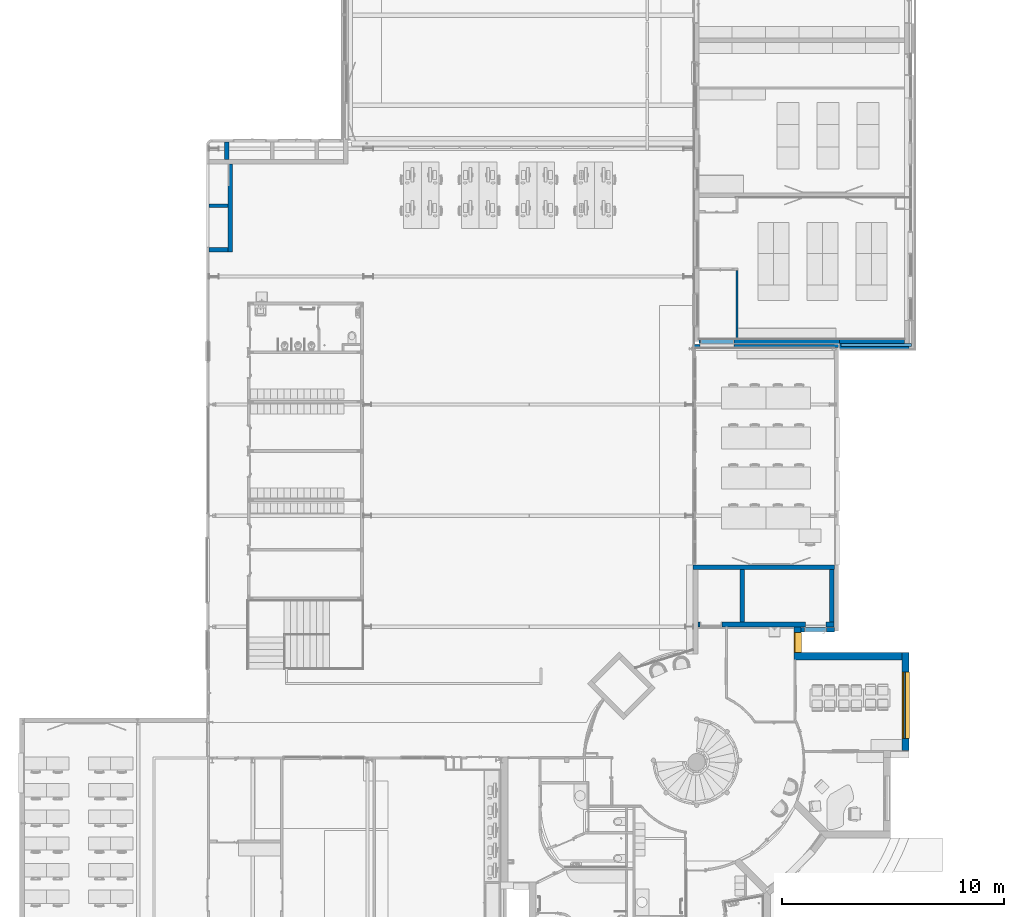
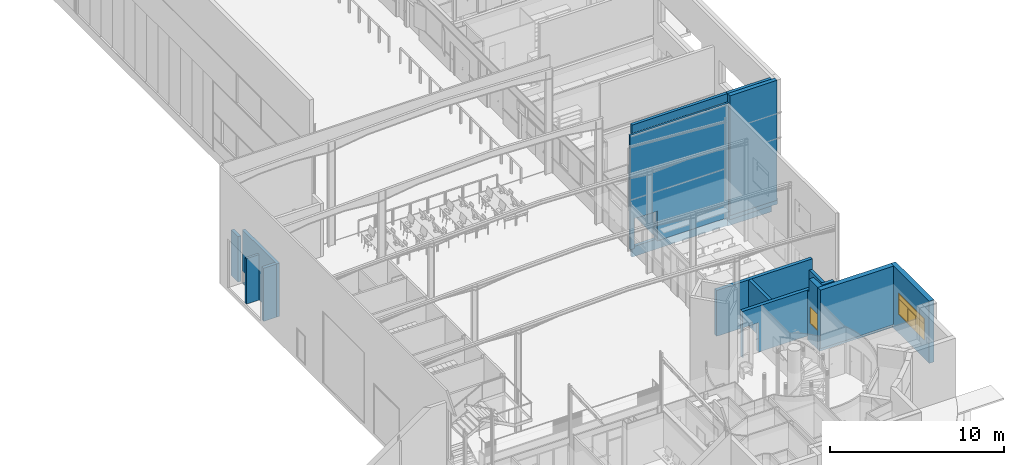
# One storey, part 59 of 137: 18 walls, 2 windows, 10 openings.
"""IFC2X3 building model written with IfcOpenShell, lengths in centimetres."""

from ifc_helpers import new_model, entity, si_unit, converted_unit, derived_unit, direction, frame, frame_2d, origin, origin_2d_with_axis, place, context, subcontext, project, spatial, polyline, rectangle, outline, extrude, clip, halfspace, bounded_halfspace, source, transform, mapped, material, layer, layer_set, layer_usage, type_object, type_shapes, element, fill, save


model = new_model("IFC2X3")

# Units and contexts
model_context = context("Model", 3, precision=0.001, world=origin(), true_north=direction((6.12303176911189e-17, 1.0)))
body_context = subcontext(model_context, "Body", "Model", "MODEL_VIEW")
ifc_project = project(units=[si_unit("LENGTHUNIT", "METRE", prefix="CENTI"), si_unit("AREAUNIT", "SQUARE_METRE"), si_unit("VOLUMEUNIT", "CUBIC_METRE"), converted_unit("PLANEANGLEUNIT", "DEGREE", entity("IfcRatioMeasure", 0.0174532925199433), si_unit("PLANEANGLEUNIT", "RADIAN"), dimensions=[0, 0, 0, 0, 0, 0, 0]), si_unit("MASSUNIT", "GRAM", prefix="KILO"), si_unit("TIMEUNIT", "SECOND"), si_unit("FREQUENCYUNIT", "HERTZ"), si_unit("THERMODYNAMICTEMPERATUREUNIT", "DEGREE_CELSIUS"), derived_unit("THERMALTRANSMITTANCEUNIT", [(si_unit("MASSUNIT", "GRAM", prefix="KILO"), 1), (si_unit("THERMODYNAMICTEMPERATUREUNIT", "KELVIN"), -1), (si_unit("TIMEUNIT", "SECOND"), -3)]), derived_unit("VOLUMETRICFLOWRATEUNIT", [(si_unit("LENGTHUNIT", "METRE"), 3), (si_unit("TIMEUNIT", "SECOND"), -1)]), si_unit("ELECTRICCURRENTUNIT", "AMPERE"), si_unit("ELECTRICVOLTAGEUNIT", "VOLT"), si_unit("POWERUNIT", "WATT"), si_unit("FORCEUNIT", "NEWTON", prefix="KILO"), si_unit("ILLUMINANCEUNIT", "LUX"), si_unit("LUMINOUSFLUXUNIT", "LUMEN"), si_unit("LUMINOUSINTENSITYUNIT", "CANDELA"), derived_unit("USERDEFINED", [(si_unit("MASSUNIT", "GRAM", prefix="KILO"), -1), (si_unit("LENGTHUNIT", "METRE"), -2), (si_unit("TIMEUNIT", "SECOND"), 3), (si_unit("LUMINOUSFLUXUNIT", "LUMEN"), 1)]), derived_unit("LINEARVELOCITYUNIT", [(si_unit("LENGTHUNIT", "METRE"), 1), (si_unit("TIMEUNIT", "SECOND"), -1)]), si_unit("PRESSUREUNIT", "PASCAL"), derived_unit("USERDEFINED", [(si_unit("LENGTHUNIT", "METRE"), -2), (si_unit("MASSUNIT", "GRAM", prefix="KILO"), 1), (si_unit("TIMEUNIT", "SECOND"), -2)])], contexts=[model_context])

# Site, building, storey
site_placement = place(None, frame((8.62739174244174, -249.285249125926, 0.0)))
site = spatial("IfcSite", under=ifc_project, at=site_placement, Name="Default", CompositionType="ELEMENT")
building_placement = place(site_placement, origin())
building = spatial("IfcBuilding", under=site, at=building_placement, CompositionType="ELEMENT")
storey_placement = place(building_placement, origin())
storey = spatial("IfcBuildingStorey", under=building, at=storey_placement, Name="RDC", CompositionType="ELEMENT", Elevation=-8.82465566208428e-11)

# Wall, opening, window
ifc_material_1 = material(Name="Maçonnerie - Enduit")
ifc_layer_1 = layer(ifc_material_1, 1.0)
ifc_material_2 = material(Name="Maçonnerie")
ifc_layer_2 = layer(ifc_material_2, 20.0)
ifc_material_3 = material(Name="Laine minérale")
ifc_layer_3 = layer(ifc_material_3, 10.0)
ifc_material_4 = material(Name="Plâtre")
ifc_layer_4 = layer(ifc_material_4, 1.0)
ifc_layer_set_1 = layer_set([ifc_layer_1, ifc_layer_2, ifc_layer_3, ifc_layer_4], Name="Mur de base:END 1 + PAR 20 + ISO 10 + PLA 1")
ifc_layer_usage_1 = layer_usage(ifc_layer_set_1, "AXIS2", "POSITIVE", -16.0)
wall_type_1 = type_object("IfcWallType", Name="Mur de base:END 1 + PAR 20 + ISO 10 + PLA 1", PredefinedType="STANDARD", material=ifc_layer_set_1)
wall_1_placement = place(storey_placement, frame((3982.90482781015, 805.980208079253, -25.0), z_axis=(0.0, 0.0, 1.0), x_axis=(0.0, 1.0, 0.0)))
wall_1 = element("IfcWallStandardCase", 1, at=wall_1_placement, inside=storey, type_object=wall_type_1, material=ifc_layer_usage_1, Name="Mur de base:END 1 + PAR 20 + ISO 10 + PLA 1", ObjectType="Mur de base:END 1 + PAR 20 + ISO 10 + PLA 1", context=body_context, shape_type="SweptSolid", body=[
    extrude(rectangle(XDim=439.999999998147, YDim=31.9999999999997, at=frame_2d((219.999999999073, -2.93098878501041e-14), x_axis=(-1.0, 0.0))), origin(), (0.0, 0.0, 1.0), 434.999999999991),
])
opening_1_placement = place(wall_1_placement, frame((354.0, 16.0, 131.0)))
opening_1 = element("IfcOpeningElement", 2, at=opening_1_placement, cuts=wall_1, Name="2C_90x115-F_90x115:2C_90x115-F_90x115:1", ObjectType="Opening", context=body_context, shape_type="SweptSolid", body=[
    extrude(rectangle(XDim=150.0, YDim=300.0, at=frame_2d((75.0, 150.0), x_axis=(1.0, 0.0))), frame((0.0, 0.0, 0.0), z_axis=(0.0, -1.0, 0.0), x_axis=(0.0, 0.0, 1.0)), (0.0, 0.0, 1.0), 32.0),
])
ifc_material_5 = material(Name="Verre")
window_style_1 = type_object("IfcWindowStyle", Name="2C_90x115-F_90x115", ConstructionType="NOTDEFINED", OperationType="NOTDEFINED", ParameterTakesPrecedence=False, Sizeable=False, material=ifc_material_5)
shared_shape_1 = source(origin(), body_context, "Body", "SweptSolid", [
    extrude(outline(polyline([(-6.08881617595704, -1.51443789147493), (11.9417748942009, -1.51443789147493), (11.910114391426, -0.971616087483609), (-5.61877789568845, -0.986172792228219), (-5.82257176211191, 2.50788903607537), (-6.32172345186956, 2.4787756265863), (-6.08881617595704, -1.51443789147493)])), frame((0.0, 27.8333333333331, 0.292799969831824), z_axis=(1.0, 0.0, 0.0), x_axis=(0.0, -0.998303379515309, 0.0582268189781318)), (0.0, 0.0, 1.0), 300.0),
    extrude(rectangle(XDim=2.0, YDim=290.0, at=frame_2d((8.88178419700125e-16, 0.0), x_axis=(1.0, 0.0))), frame((150.0, 2.5, 110.0), z_axis=(0.0, 0.0, 1.0), x_axis=(0.0, 1.0, 0.0)), (0.0, 0.0, 1.0), 35.0000000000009),
    extrude(rectangle(XDim=10.0, YDim=300.0, at=origin_2d_with_axis()), frame((150.0, 5.0, 0.0), z_axis=(0.0, 0.0, 1.0), x_axis=(0.0, 1.0, 0.0)), (0.0, 0.0, 1.0), 4.99999999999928),
    extrude(outline(polyline([(-22.4999999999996, -150.0), (22.4999999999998, -150.0), (22.4999999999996, 150.0), (-22.4999999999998, 150.0), (-22.4999999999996, -150.0)]), holes=[polyline([(17.5000000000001, -145.0), (-17.4999999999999, -145.0), (-17.5000000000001, 145.0), (17.4999999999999, 145.0), (17.5000000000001, -145.0)])]), frame((150.0, 0.0, 127.500000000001), z_axis=(0.0, 1.0, 0.0), x_axis=(0.0, 0.0, -1.0)), (0.0, 0.0, 1.0), 9.99999999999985),
    extrude(rectangle(XDim=2.0, YDim=94.6666666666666, at=frame_2d((4.44089209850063e-16, 0.0), x_axis=(1.0, 0.0))), frame((150.0, 7.5, 9.0), z_axis=(0.0, 0.0, 1.0), x_axis=(0.0, 1.0, 0.0)), (0.0, 0.0, 1.0), 92.0),
    extrude(outline(polyline([(-50.0, -51.3333333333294), (50.0, -51.3333333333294), (50.0, 51.3333333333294), (-50.0, 51.3333333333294), (-50.0, -51.3333333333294)]), holes=[polyline([(46.0, -47.3333333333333), (-46.0, -47.3333333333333), (-46.0, 47.3333333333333), (46.0, 47.3333333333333), (46.0, -47.3333333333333)])]), frame((150.0, 5.5, 55.0), z_axis=(0.0, 1.0, 0.0), x_axis=(0.0, 0.0, -1.0)), (0.0, 0.0, 1.0), 4.0),
    extrude(rectangle(XDim=2.0, YDim=94.6666666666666, at=frame_2d((8.88178419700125e-16, 0.0), x_axis=(1.0, 0.0))), frame((248.66666666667, 2.5, 9.0), z_axis=(0.0, 0.0, 1.0), x_axis=(0.0, 1.0, 0.0)), (0.0, 0.0, 1.0), 92.0),
    extrude(outline(polyline([(-50.0, -51.3333333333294), (50.0, -51.3333333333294), (50.0, 51.3333333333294), (-50.0, 51.3333333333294), (-50.0, -51.3333333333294)]), holes=[polyline([(46.0, -47.3333333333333), (-46.0, -47.3333333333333), (-46.0, 47.3333333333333), (46.0, 47.3333333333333), (46.0, -47.3333333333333)])]), frame((248.66666666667, 0.500000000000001, 55.0), z_axis=(0.0, 1.0, 0.0), x_axis=(0.0, 0.0, -1.0)), (0.0, 0.0, 1.0), 4.0),
    extrude(rectangle(XDim=2.0, YDim=94.6666666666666, at=frame_2d((8.88178419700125e-16, 0.0), x_axis=(1.0, 0.0))), frame((51.3333333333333, 2.5, 9.0), z_axis=(0.0, 0.0, 1.0), x_axis=(0.0, 1.0, 0.0)), (0.0, 0.0, 1.0), 92.0),
    extrude(outline(polyline([(-50.0, -51.3333333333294), (50.0, -51.3333333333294), (50.0, 51.3333333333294), (-50.0, 51.3333333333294), (-50.0, -51.3333333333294)]), holes=[polyline([(46.0, -47.3333333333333), (-46.0, -47.3333333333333), (-46.0, 47.3333333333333), (46.0, 47.3333333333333), (46.0, -47.3333333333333)])]), frame((51.3333333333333, 0.500000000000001, 55.0), z_axis=(0.0, 1.0, 0.0), x_axis=(0.0, 0.0, -1.0)), (0.0, 0.0, 1.0), 4.0),
])
type_shapes(window_style_1, [shared_shape_1])
window_1_placement = place(opening_1_placement, frame((0.0, 0.0, 0.0), z_axis=(0.0, 0.0, 1.0), x_axis=(-1.0, 0.0, 0.0)))
window_1 = element("IfcWindow", 3, at=window_1_placement, inside=storey, type_object=window_style_1, material=ifc_material_5, Name="2C_90x115-F_90x115:2C_90x115-F_90x115", ObjectType="2C_90x115-F_90x115", OverallHeight=150.0, OverallWidth=300.0, context=body_context, shape_type="MappedRepresentation", body=[
    mapped(shared_shape_1, transform((0.0, 0.0, 0.0), scale=1.0)),
])
fill(opening_1, window_1)

# Wall, opening
ifc_layer_usage_2 = layer_usage(ifc_layer_set_1, "AXIS2", "POSITIVE", -16.0)
wall_2_placement = place(storey_placement, frame((3966.90482781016, 1229.9802080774, -25.0), z_axis=(0.0, 0.0, 1.0), x_axis=(-1.0, 0.0, 0.0)))
wall_2 = element("IfcWallStandardCase", 4, at=wall_2_placement, inside=storey, type_object=wall_type_1, material=ifc_layer_usage_2, Name="Mur de base:END 1 + PAR 20 + ISO 10 + PLA 1", ObjectType="Mur de base:END 1 + PAR 20 + ISO 10 + PLA 1", context=body_context, shape_type="Clipping", body=[
    clip(extrude(rectangle(XDim=485.000000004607, YDim=32.0000000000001, at=frame_2d((242.500000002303, 0.0), x_axis=(-1.0, 0.0))), origin(), (0.0, 0.0, 1.0), 434.999999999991), bounded_halfspace(frame((0.0, 5.0, 25.0), z_axis=(0.0, 0.0, 1.0), x_axis=(-1.0, 0.0, 0.0)), True, frame((0.0, 5.0, 25.0)), polyline([(0.0, 0.0), (485.0, 0.0), (485.0, 11.0), (0.0, 11.0), (0.0, 0.0)]))),
])
opening_2_placement = place(wall_2_placement, origin())
element("IfcOpeningElement", 5, at=opening_2_placement, cuts=wall_2, Name="Mur de base:END 1 + PAR 20 + ISO 10 + PLA 1", ObjectType="Opening", context=body_context, shape_type="SweptSolid", body=[
    extrude(rectangle(XDim=115.0, YDim=32.0000000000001, at=frame_2d((2.1582735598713e-13, -7.105427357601e-15), x_axis=(0.0, 1.0))), frame((469.0, -106.0, 188.499999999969), z_axis=(0.0, 1.0, 0.0), x_axis=(1.0, 0.0, 0.0)), (0.0, 0.0, 1.0), 89.9999999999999),
])

# Wall, openings, window
ifc_layer_usage_3 = layer_usage(ifc_layer_set_1, "AXIS2", "NEGATIVE", 16.0)
wall_3_placement = place(storey_placement, frame((3497.90482780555, 1361.98020807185, -25.0), z_axis=(0.0, 0.0, 1.0), x_axis=(0.0, -1.0, 0.0)))
wall_3 = element("IfcWallStandardCase", 6, at=wall_3_placement, inside=storey, type_object=wall_type_1, material=ifc_layer_usage_3, Name="Mur de base:END 1 + PAR 20 + ISO 10 + PLA 1", ObjectType="Mur de base:END 1 + PAR 20 + ISO 10 + PLA 1", context=body_context, shape_type="Clipping", body=[
    clip(clip(extrude(rectangle(XDim=115.999999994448, YDim=31.9999999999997, at=frame_2d((57.9999999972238, -4.88498130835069e-14), x_axis=(-1.0, 0.0))), origin(), (0.0, 0.0, 1.0), 434.999999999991), bounded_halfspace(frame((0.0, -16.0, 347.0), z_axis=(0.0, 0.0, -1.0), x_axis=(0.0, -1.0, 0.0)), True, frame((0.0, -16.0, 347.0)), polyline([(0.0, 0.0), (16.0003944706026, 0.0), (16.0003944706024, 32.0), (3.0, 32.0), (0.0, 32.0), (0.0, 0.0)]))), halfspace(frame((16.0003944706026, 0.0, 435.0), z_axis=(-0.956012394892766, 0.0, 0.293326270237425), x_axis=(0.0, 1.0, 0.0)), False)),
])
opening_3_placement = place(wall_3_placement, origin())
element("IfcOpeningElement", 7, at=opening_3_placement, cuts=wall_3, Name="Mur de base:END 1 + PAR 20 + ISO 10 + PLA 1", ObjectType="Opening", context=body_context, shape_type="SweptSolid", body=[
    extrude(outline(polyline([(-58.7260355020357, -8.60423726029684), (33.3229802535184, -8.60423726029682), (25.4030552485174, 17.2084745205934), (-58.7260355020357, -8.60423726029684)])), frame((7.00026298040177, 16.0, 376.333333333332), z_axis=(0.0, -1.0, 0.0), x_axis=(-0.293326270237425, 0.0, -0.956012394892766)), (0.0, 0.0, 1.0), 32.0),
])
opening_4_placement = place(wall_3_placement, frame((116.0, 16.0, 131.0)))
opening_4 = element("IfcOpeningElement", 8, at=opening_4_placement, cuts=wall_3, Name="B_90x115:B_90x115:1", ObjectType="Opening", context=body_context, shape_type="SweptSolid", body=[
    extrude(rectangle(XDim=115.0, YDim=90.0, at=frame_2d((57.5, 45.0), x_axis=(1.0, 0.0))), frame((0.0, 0.0, 0.0), z_axis=(0.0, -1.0, 0.0), x_axis=(0.0, 0.0, 1.0)), (0.0, 0.0, 1.0), 32.0),
])
window_style_2 = type_object("IfcWindowStyle", Name="B_90x115", ConstructionType="NOTDEFINED", OperationType="NOTDEFINED", ParameterTakesPrecedence=False, Sizeable=False, material=ifc_material_5)
shared_shape_2 = source(origin(), body_context, "Body", "SweptSolid", [
    extrude(rectangle(XDim=3.0, YDim=72.0000000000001, at=frame_2d((7.7715611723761e-16, 0.0), x_axis=(1.0, 0.0))), frame((45.0, 2.5, 9.0), z_axis=(0.0, 0.0, 1.0), x_axis=(0.0, 1.0, 0.0)), (0.0, 0.0, 1.0), 97.0000000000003),
    extrude(outline(polyline([(-52.4999999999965, -40.0), (52.4999999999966, -40.0), (52.4999999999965, 40.0), (-52.4999999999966, 40.0), (-52.4999999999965, -40.0)]), holes=[polyline([(48.5000000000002, -36.0), (-48.5000000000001, -36.0), (-48.5000000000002, 36.0), (48.5000000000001, 36.0), (48.5000000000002, -36.0)])]), frame((45.0, 0.500000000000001, 57.4999999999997), z_axis=(0.0, 1.0, 0.0), x_axis=(0.0, 0.0, -1.0)), (0.0, 0.0, 1.0), 4.0),
    extrude(outline(polyline([(-57.5000000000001, -45.0), (57.5, -45.0), (57.5, 45.0), (-57.5000000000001, 45.0), (-57.5000000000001, -45.0)]), holes=[polyline([(52.5000000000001, -40.0), (-52.5000000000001, -40.0), (-52.5000000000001, 40.0), (52.5000000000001, 40.0), (52.5000000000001, -40.0)])]), frame((45.0, 0.0, 57.4999999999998), z_axis=(0.0, 1.0, 0.0), x_axis=(0.0, 0.0, -1.0)), (0.0, 0.0, 1.0), 4.99999999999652),
    extrude(outline(polyline([(-9.77963712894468, -1.51138989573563), (19.2447171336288, -1.51138989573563), (19.2228065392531, -0.976875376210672), (-9.30053526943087, -0.991330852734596), (-9.44388541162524, 2.50573230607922), (-9.9434658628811, 2.4852537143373), (-9.77963712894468, -1.51138989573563)])), frame((0.0, 24.1666666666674, 0.701668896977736), z_axis=(1.0, 0.0, 0.0), x_axis=(0.0, -0.999160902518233, 0.0409571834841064)), (0.0, 0.0, 1.0), 90.0),
])
type_shapes(window_style_2, [shared_shape_2])
window_2_placement = place(opening_4_placement, frame((-90.0, -32.0, 0.0)))
window_2 = element("IfcWindow", 9, at=window_2_placement, inside=storey, type_object=window_style_2, material=ifc_material_5, Name="B_90x115:B_90x115", ObjectType="B_90x115", OverallHeight=115.0, OverallWidth=89.9999999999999, context=body_context, shape_type="MappedRepresentation", body=[
    mapped(shared_shape_2, transform((0.0, 0.0, 0.0), scale=1.0)),
])
fill(opening_4, window_2)

# Wall
ifc_layer_5 = layer(ifc_material_4, 2.0)
ifc_layer_6 = layer(ifc_material_2, 20.0)
ifc_layer_set_2 = layer_set([ifc_layer_5, ifc_layer_6], Name="Mur de base:PLA 2 + PAR 20")
ifc_layer_usage_4 = layer_usage(ifc_layer_set_2, "AXIS2", "NEGATIVE", 11.0)
wall_type_2 = type_object("IfcWallType", Name="Mur de base:PLA 2 + PAR 20", PredefinedType="STANDARD", material=ifc_layer_set_2)
wall_4_placement = place(storey_placement, frame((3027.90482780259, 1629.98020807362, 0.0)))
element("IfcWallStandardCase", 10, at=wall_4_placement, inside=storey, type_object=wall_type_2, material=ifc_layer_usage_4, Name="Mur de base:PLA 2 + PAR 20", ObjectType="Mur de base:PLA 2 + PAR 20", context=body_context, shape_type="Clipping", body=[
    clip(extrude(rectangle(XDim=635.000000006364, YDim=22.0000000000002, at=frame_2d((317.500000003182, 4.88498130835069e-14), x_axis=(-1.0, 0.0))), origin(), (0.0, 0.0, 1.0), 322.000000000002), bounded_halfspace(frame((0.0, -11.0, 322.0), z_axis=(0.0, 0.0, -1.0), x_axis=(-1.0, 0.0, 0.0)), True, frame((0.0, -11.0, 322.0)), polyline([(0.0, 0.0), (22.0, 0.0), (211.0, 0.0), (231.0, 0.0), (635.0, 0.0), (635.0, 22.0), (0.0, 22.0), (0.0, 0.0)]))),
])

# Wall, openings
ifc_layer_usage_5 = layer_usage(ifc_layer_set_2, "AXIS2", "NEGATIVE", 11.0)
wall_5_placement = place(storey_placement, frame((3660.90482780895, 1372.98020807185, 0.0), z_axis=(0.0, 0.0, 1.0), x_axis=(-1.0, 0.0, 0.0)))
wall_5 = element("IfcWallStandardCase", 11, at=wall_5_placement, inside=storey, type_object=wall_type_2, material=ifc_layer_usage_5, Name="Mur de base:PLA 2 + PAR 20", ObjectType="Mur de base:PLA 2 + PAR 20", context=body_context, shape_type="Clipping", body=[
    clip(extrude(rectangle(XDim=611.000000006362, YDim=22.0000000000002, at=frame_2d((305.500000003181, 1.95399252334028e-14), x_axis=(-1.0, 0.0))), origin(), (0.0, 0.0, 1.0), 322.000000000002), bounded_halfspace(frame((0.0, -11.0, 322.0), z_axis=(0.0, 0.0, -1.0), x_axis=(1.0, 0.0, 0.0)), True, frame((0.0, -11.0, 322.0)), polyline([(0.0, 0.0), (402.0, 0.0), (422.0, 0.0), (611.0, 0.0), (611.0, 22.0), (179.0, 22.0), (147.0, 22.0), (0.0, 22.0), (0.0, 0.0)]))),
])
opening_5_placement = place(wall_5_placement, origin())
element("IfcOpeningElement", 12, at=opening_5_placement, cuts=wall_5, Name="Mur de base:PLA 2 + PAR 20", ObjectType="Opening", context=body_context, shape_type="SweptSolid", body=[
    extrude(rectangle(XDim=204.000000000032, YDim=93.0000000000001, at=frame_2d((0.0, -2.16715534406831e-13), x_axis=(1.0, 0.0))), frame((82.0, -11.0, 102.0), z_axis=(0.0, 1.0, 0.0), x_axis=(0.0, 0.0, -1.0)), (0.0, 0.0, 1.0), 22.0000000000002),
])
opening_6_placement = place(wall_5_placement, frame((502.999246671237, -11.0, 0.0)))
element("IfcOpeningElement", 13, at=opening_6_placement, cuts=wall_5, Name="Simple(R)_bois_Existant_mu:93 x 204 cm:1", ObjectType="Opening", context=body_context, shape_type="SweptSolid", body=[
    extrude(rectangle(XDim=206.999999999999, YDim=98.9999999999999, at=frame_2d((103.499999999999, 49.4999999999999), x_axis=(1.0, 0.0))), frame((0.0, 0.0, 0.0), z_axis=(0.0, 1.0, 0.0), x_axis=(0.0, 0.0, 1.0)), (0.0, 0.0, 1.0), 22.0),
])

# Walls
ifc_layer_7 = layer(ifc_material_2, 20.0)
ifc_layer_set_3 = layer_set([ifc_layer_7], Name="Mur de base:PAR 20")
ifc_layer_usage_6 = layer_usage(ifc_layer_set_3, "AXIS2", "NEGATIVE", 10.0)
wall_type_3 = type_object("IfcWallType", Name="Mur de base:PAR 20", PredefinedType="STANDARD", material=ifc_layer_set_3)
wall_6_placement = place(storey_placement, frame((3248.90482780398, 1383.98020807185, 0.0), z_axis=(0.0, 0.0, 1.0), x_axis=(0.0, 1.0, 0.0)))
element("IfcWallStandardCase", 14, at=wall_6_placement, inside=storey, type_object=wall_type_3, material=ifc_layer_usage_6, Name="Mur de base:PAR 20", ObjectType="Mur de base:PAR 20", context=body_context, shape_type="Clipping", body=[
    clip(extrude(rectangle(XDim=235.000000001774, YDim=19.9999999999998, at=frame_2d((117.500000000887, 1.77635683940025e-15), x_axis=(-1.0, 0.0))), origin(), (0.0, 0.0, 1.0), 322.000000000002), bounded_halfspace(frame((0.0, -10.0, 322.0), z_axis=(0.0, 0.0, -1.0), x_axis=(0.0, 1.0, 0.0)), True, frame((0.0, -10.0, 322.0)), polyline([(0.0, 0.0), (235.0, 0.0), (235.0, 20.0), (0.0, 20.0), (0.0, 0.0)]))),
])
ifc_layer_usage_7 = layer_usage(ifc_layer_set_3, "AXIS2", "NEGATIVE", 10.0)
wall_7_placement = place(storey_placement, frame((3650.90482780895, 1618.98020807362, 0.0), z_axis=(0.0, 0.0, 1.0), x_axis=(0.0, -1.0, 0.0)))
element("IfcWallStandardCase", 15, at=wall_7_placement, inside=storey, type_object=wall_type_3, material=ifc_layer_usage_7, Name="Mur de base:PAR 20", ObjectType="Mur de base:PAR 20", context=body_context, shape_type="SweptSolid", body=[
    extrude(rectangle(XDim=235.000000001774, YDim=19.9999999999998, at=frame_2d((117.500000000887, 0.0), x_axis=(-1.0, 0.0))), origin(), (0.0, 0.0, 1.0), 250.0),
])

# Wall, opening
ifc_layer_usage_8 = layer_usage(ifc_layer_set_3, "AXIS2", "NEGATIVE", 10.0)
wall_8_placement = place(storey_placement, frame((947.0, 3047.98020494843, 0.0), z_axis=(0.0, 0.0, 1.0), x_axis=(0.0, 1.0, 0.0)))
wall_8 = element("IfcWallStandardCase", 16, at=wall_8_placement, inside=storey, type_object=wall_type_3, material=ifc_layer_usage_8, Name="Mur de base:PAR 20", ObjectType="Mur de base:PAR 20", context=body_context, shape_type="SweptSolid", body=[
    extrude(rectangle(XDim=394.999999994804, YDim=20.0, at=frame_2d((197.499999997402, -1.68753899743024e-14), x_axis=(-1.0, 0.0))), origin(), (0.0, 0.0, 1.0), 373.000000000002),
])
opening_7_placement = place(wall_8_placement, origin())
element("IfcOpeningElement", 17, at=opening_7_placement, cuts=wall_8, Name="Mur de base:PAR 20", ObjectType="Opening", context=body_context, shape_type="SweptSolid", body=[
    extrude(rectangle(XDim=80.0000000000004, YDim=99.9999999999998, at=frame_2d((0.0, 0.0), x_axis=(0.0, 1.0))), frame((345.0, -162.4, 43.2690485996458), z_axis=(0.0, 1.0, 0.0), x_axis=(1.0, 0.0, 0.0)), (0.0, 0.0, 1.0), 304.8),
])

# Walls
ifc_layer_usage_9 = layer_usage(ifc_layer_set_3, "AXIS2", "NEGATIVE", 10.0)
wall_9_placement = place(storey_placement, frame((937.0, 3057.98020494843, 0.0), z_axis=(0.0, 0.0, 1.0), x_axis=(-1.0, 0.0, 0.0)))
element("IfcWallStandardCase", 18, at=wall_9_placement, inside=storey, type_object=wall_type_3, material=ifc_layer_usage_9, Name="Mur de base:PAR 20", ObjectType="Mur de base:PAR 20", context=body_context, shape_type="SweptSolid", body=[
    extrude(rectangle(XDim=86.0951721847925, YDim=19.9999999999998, at=frame_2d((43.0475860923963, -7.19424519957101e-14), x_axis=(-1.0, 0.0))), origin(), (0.0, 0.0, 1.0), 373.000000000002),
])
ifc_layer_usage_10 = layer_usage(ifc_layer_set_3, "AXIS2", "NEGATIVE", 10.0)
wall_10_placement = place(storey_placement, frame((930.904827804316, 3462.98020494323, 0.0), z_axis=(0.0, 0.0, 1.0), x_axis=(0.0, 1.0, 0.0)))
element("IfcWallStandardCase", 19, at=wall_10_placement, inside=storey, type_object=wall_type_3, material=ifc_layer_usage_10, Name="Mur de base:PAR 20", ObjectType="Mur de base:PAR 20", context=body_context, shape_type="SweptSolid", body=[
    extrude(rectangle(XDim=80.0003975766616, YDim=20.0, at=frame_2d((40.0001987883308, 0.0), x_axis=(-1.0, 0.0))), origin(), (0.0, 0.0, 1.0), 318.000000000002),
])

# Wall, opening
ifc_material_6 = material(Name="Tôle/Doublage")
ifc_layer_8 = layer(ifc_material_6, 4.0)
ifc_layer_9 = layer(ifc_material_3, 8.0)
ifc_layer_10 = layer(ifc_material_4, 2.0)
ifc_layer_set_4 = layer_set([ifc_layer_8, ifc_layer_9, ifc_layer_10], Name="Mur de base:MET 4 + ISO 8 + PLA 2")
ifc_layer_usage_11 = layer_usage(ifc_layer_set_4, "AXIS2", "NEGATIVE", 7.0)
wall_type_4 = type_object("IfcWallType", Name="Mur de base:MET 4 + ISO 8 + PLA 2", PredefinedType="STANDARD", material=ifc_layer_set_4)
wall_11_placement = place(storey_placement, frame((3029.90482780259, 2623.98020806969, 0.0)))
wall_11 = element("IfcWallStandardCase", 20, at=wall_11_placement, inside=storey, type_object=wall_type_4, material=ifc_layer_usage_11, Name="Mur de base:MET 4 + ISO 8 + PLA 2", ObjectType="Mur de base:MET 4 + ISO 8 + PLA 2", context=body_context, shape_type="SweptSolid", body=[
    extrude(rectangle(XDim=653.000000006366, YDim=14.0000000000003, at=frame_2d((326.500000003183, 2.70894418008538e-14), x_axis=(-1.0, 0.0))), origin(), (0.0, 0.0, 1.0), 801.000000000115),
])
opening_8_placement = place(wall_11_placement, origin())
element("IfcOpeningElement", 21, at=opening_8_placement, cuts=wall_11, Name="Mur de base:MET 4 + ISO 8 + PLA 2", ObjectType="Opening", context=body_context, shape_type="SweptSolid", body=[
    extrude(rectangle(XDim=209.000000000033, YDim=151.499999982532, at=origin_2d_with_axis()), frame((105.750000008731, -7.0, 104.500000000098), z_axis=(0.0, 1.0, 0.0), x_axis=(0.0, 0.0, -1.0)), (0.0, 0.0, 1.0), 14.0000000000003),
])

# Wall
ifc_material_7 = material(Name="Béton, coulé sur place, gris")
ifc_layer_11 = layer(ifc_material_7, 20.0)
ifc_layer_set_5 = layer_set([ifc_layer_11], Name="Mur de base:BET 21")
ifc_layer_usage_12 = layer_usage(ifc_layer_set_5, "AXIS2", "NEGATIVE", 10.0)
wall_type_5 = type_object("IfcWallType", Name="Mur de base:BET 21", PredefinedType="NOTDEFINED")
wall_12_placement = place(storey_placement, frame((3978.90482781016, 2644.98020806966, -74.911813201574), z_axis=(0.0, 0.0, 1.0), x_axis=(-1.0, 0.0, 0.0)))
element("IfcWallStandardCase", 22, at=wall_12_placement, inside=storey, type_object=wall_type_5, material=ifc_layer_usage_12, Name="Mur de base:BET 21", ObjectType="Mur de base:BET 21", context=body_context, shape_type="SweptSolid", body=[
    extrude(rectangle(XDim=292.000000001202, YDim=19.9999999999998, at=frame_2d((146.000000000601, -1.06581410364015e-13), x_axis=(-1.0, 0.0))), origin(), (0.0, 0.0, 1.0), 929.911813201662),
])

# Wall, opening
ifc_layer_12 = layer(ifc_material_7, 20.0)
ifc_layer_set_6 = layer_set([ifc_layer_12], Name="Mur de base:BET 20")
ifc_layer_usage_13 = layer_usage(ifc_layer_set_6, "AXIS2", "NEGATIVE", 10.0)
wall_type_6 = type_object("IfcWallType", Name="Mur de base:BET 20", PredefinedType="STANDARD", material=ifc_layer_set_6)
wall_13_placement = place(storey_placement, frame((3686.90482780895, 2644.98020806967, -69.9999930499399), z_axis=(0.0, 0.0, 1.0), x_axis=(-1.0, 0.0, 0.0)))
wall_13 = element("IfcWallStandardCase", 23, at=wall_13_placement, inside=storey, type_object=wall_type_6, material=ifc_layer_usage_13, Name="Mur de base:BET 20", ObjectType="Mur de base:BET 20", context=body_context, shape_type="SweptSolid", body=[
    extrude(rectangle(XDim=632.999999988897, YDim=19.9999999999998, at=frame_2d((316.499999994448, -6.21724893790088e-15), x_axis=(-1.0, 0.0))), origin(), (0.0, 0.0, 1.0), 924.999993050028),
])
opening_9_placement = place(wall_13_placement, frame((624.500000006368, 10.0, 69.9999930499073)))
element("IfcOpeningElement", 24, at=opening_9_placement, cuts=wall_13, Name="Tierce(R)_bois_mu:143 x 204 cm:1", ObjectType="Opening", context=body_context, shape_type="SweptSolid", body=[
    extrude(rectangle(XDim=206.999999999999, YDim=149.0, at=frame_2d((103.499999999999, 74.4999999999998), x_axis=(1.0, 0.0))), frame((0.0, 0.0, 0.0), z_axis=(0.0, -1.0, 0.0), x_axis=(0.0, 0.0, 1.0)), (0.0, 0.0, 1.0), 20.0),
])

# Wall
ifc_material_8 = material(Name="Stuc")
ifc_layer_13 = layer(ifc_material_8, 10.0)
ifc_layer_set_7 = layer_set([ifc_layer_13], Name="Mur de base:CIM 10")
ifc_layer_usage_14 = layer_usage(ifc_layer_set_7, "AXIS2", "NEGATIVE", 5.0)
wall_type_7 = type_object("IfcWallType", Name="Mur de base:CIM 10", PredefinedType="STANDARD", material=ifc_layer_set_7)
wall_14_placement = place(storey_placement, frame((3224.90482780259, 2964.9802074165, 0.0), z_axis=(0.0, 0.0, 1.0), x_axis=(0.0, -1.0, 0.0)))
element("IfcWallStandardCase", 25, at=wall_14_placement, inside=storey, type_object=wall_type_7, material=ifc_layer_usage_14, Name="Mur de base:CIM 10", ObjectType="Mur de base:CIM 10", context=body_context, shape_type="Clipping", body=[
    clip(extrude(rectangle(XDim=309.999999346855, YDim=10.0000000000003, at=frame_2d((154.999999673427, -3.10862446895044e-15), x_axis=(-1.0, 0.0))), origin(), (0.0, 0.0, 1.0), 320.000000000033), bounded_halfspace(frame((0.0, -5.0, 320.0), z_axis=(0.0, 0.0, -1.0), x_axis=(-1.0, 0.0, 0.0)), True, frame((0.0, -5.0, 320.0)), polyline([(0.0, 0.0), (309.99999934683, 0.0), (309.99999934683, 10.0), (0.0, 10.0), (0.0, 0.0)]))),
])

# Wall, opening
ifc_layer_14 = layer(ifc_material_6, 4.0)
ifc_layer_15 = layer(ifc_material_3, 14.0)
ifc_layer_16 = layer(ifc_material_4, 2.0)
ifc_layer_set_8 = layer_set([ifc_layer_14, ifc_layer_15, ifc_layer_16], Name="Mur de base:MET 4 + ISO 14 + PLA 2")
ifc_layer_usage_15 = layer_usage(ifc_layer_set_8, "AXIS2", "NEGATIVE", 10.0)
wall_type_8 = type_object("IfcWallType", Name="Mur de base:MET 4 + ISO 14 + PLA 2", PredefinedType="NOTDEFINED")
wall_15_placement = place(storey_placement, frame((3662.90482780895, 1348.98020807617, -25.0), z_axis=(0.0, 0.0, 1.0), x_axis=(-1.0, 0.0, 0.0)))
wall_15 = element("IfcWallStandardCase", 26, at=wall_15_placement, inside=storey, type_object=wall_type_8, material=ifc_layer_usage_15, Name="Mur de base:MET 4 + ISO 14 + PLA 2", ObjectType="Mur de base:MET 4 + ISO 14 + PLA 2", context=body_context, shape_type="Clipping", body=[
    clip(extrude(rectangle(XDim=149.000000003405, YDim=20.0000000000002, at=frame_2d((74.5000000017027, -2.30926389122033e-14), x_axis=(-1.0, 0.0))), origin(), (0.0, 0.0, 1.0), 347.000000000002), bounded_halfspace(frame((0.0, -10.0, 347.0), z_axis=(0.0, 0.0, -1.0), x_axis=(1.0, 0.0, 0.0)), True, frame((0.0, -10.0, 347.0)), polyline([(0.0, 0.0), (149.0, 0.0), (149.0, 12.9997070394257), (0.0, 12.9997070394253), (0.0, 0.0)]))),
])
opening_10_placement = place(wall_15_placement, frame((34.5000000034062, -10.0, 25.0)))
element("IfcOpeningElement", 27, at=opening_10_placement, cuts=wall_15, Name="Simple(R)_bois_Existant_mu:93 x 204 cm:1", ObjectType="Opening", context=body_context, shape_type="SweptSolid", body=[
    extrude(rectangle(XDim=206.999999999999, YDim=98.9999999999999, at=frame_2d((103.499999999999, 49.4999999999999), x_axis=(1.0, 0.0))), frame((0.0, 0.0, 0.0), z_axis=(0.0, 1.0, 0.0), x_axis=(0.0, 0.0, 1.0)), (0.0, 0.0, 1.0), 20.0),
])

# Walls
ifc_layer_17 = layer(ifc_material_2, 15.0)
ifc_layer_set_9 = layer_set([ifc_layer_17], Name="Mur de base:PAR 15")
ifc_layer_usage_16 = layer_usage(ifc_layer_set_9, "AXIS2", "POSITIVE", -7.5)
wall_type_9 = type_object("IfcWallType", Name="Mur de base:PAR 15", PredefinedType="STANDARD", material=ifc_layer_set_9)
wall_16_placement = place(storey_placement, frame((937.0, 3255.4802049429, 0.0), z_axis=(0.0, 0.0, 1.0), x_axis=(-1.0, 0.0, 0.0)))
element("IfcWallStandardCase", 28, at=wall_16_placement, inside=storey, type_object=wall_type_9, material=ifc_layer_usage_16, Name="Mur de base:PAR 15", ObjectType="Mur de base:PAR 15", context=body_context, shape_type="SweptSolid", body=[
    extrude(rectangle(XDim=86.0951721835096, YDim=15.0000000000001, at=frame_2d((43.0475860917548, 1.33226762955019e-14), x_axis=(-1.0, 0.0))), origin(), (0.0, 0.0, 1.0), 318.0),
])
ifc_layer_18 = layer(ifc_material_2, 1.0)
ifc_layer_19 = layer(ifc_material_3, 9.0)
ifc_layer_20 = layer(ifc_material_4, 2.0)
ifc_layer_set_10 = layer_set([ifc_layer_18, ifc_layer_19, ifc_layer_20], Name="Mur de base:PLA 2 +  + ISO 9 + ETAN 1")
ifc_layer_usage_17 = layer_usage(ifc_layer_set_10, "AXIS2", "NEGATIVE", 6.0)
wall_type_10 = type_object("IfcWallType", Name="Mur de base:PLA 2 +  + ISO 9 + ETAN 1", PredefinedType="STANDARD", material=ifc_layer_set_10)
wall_17_placement = place(storey_placement, frame((3692.90482780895, 2628.98020806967, -25.0)))
element("IfcWallStandardCase", 29, at=wall_17_placement, inside=storey, type_object=wall_type_10, material=ifc_layer_usage_17, Name="Mur de base:PLA 2 +  + ISO 9 + ETAN 1", ObjectType="Mur de base:PLA 2 +  + ISO 9 + ETAN 1", context=body_context, shape_type="SweptSolid", body=[
    extrude(rectangle(XDim=318.000000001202, YDim=11.9999999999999, at=frame_2d((159.000000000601, 0.0), x_axis=(-1.0, 0.0))), origin(), (0.0, 0.0, 1.0), 39.9999999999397),
])
ifc_material_9 = material(Name="Tôle/Doublage(PROJET)")
ifc_layer_21 = layer(ifc_material_9, 4.0)
ifc_layer_22 = layer(ifc_material_3, 23.0)
ifc_layer_set_11 = layer_set([ifc_layer_21, ifc_layer_22], Name="Mur de base:MET PROJET 4 + ISO 23")
ifc_layer_usage_18 = layer_usage(ifc_layer_set_11, "AXIS2", "NEGATIVE", 13.5)
wall_type_11 = type_object("IfcWallType", Name="Mur de base:MET PROJET 4 + ISO 23", PredefinedType="NOTDEFINED")
wall_18_placement = place(storey_placement, frame((3998.90482781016, 2621.48020806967, 15.088186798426), z_axis=(0.0, 0.0, 1.0), x_axis=(-1.0, 0.0, 0.0)))
element("IfcWallStandardCase", 30, at=wall_18_placement, inside=storey, type_object=wall_type_11, material=ifc_layer_usage_18, Name="Mur de base:MET PROJET 4 + ISO 23", ObjectType="Mur de base:MET PROJET 4 + ISO 23", context=body_context, shape_type="SweptSolid", body=[
    extrude(rectangle(XDim=312.000000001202, YDim=26.9999999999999, at=frame_2d((156.000000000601, -2.48689957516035e-14), x_axis=(-1.0, 0.0))), origin(), (0.0, 0.0, 1.0), 839.811813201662),
])

save(model, "model.ifc")
